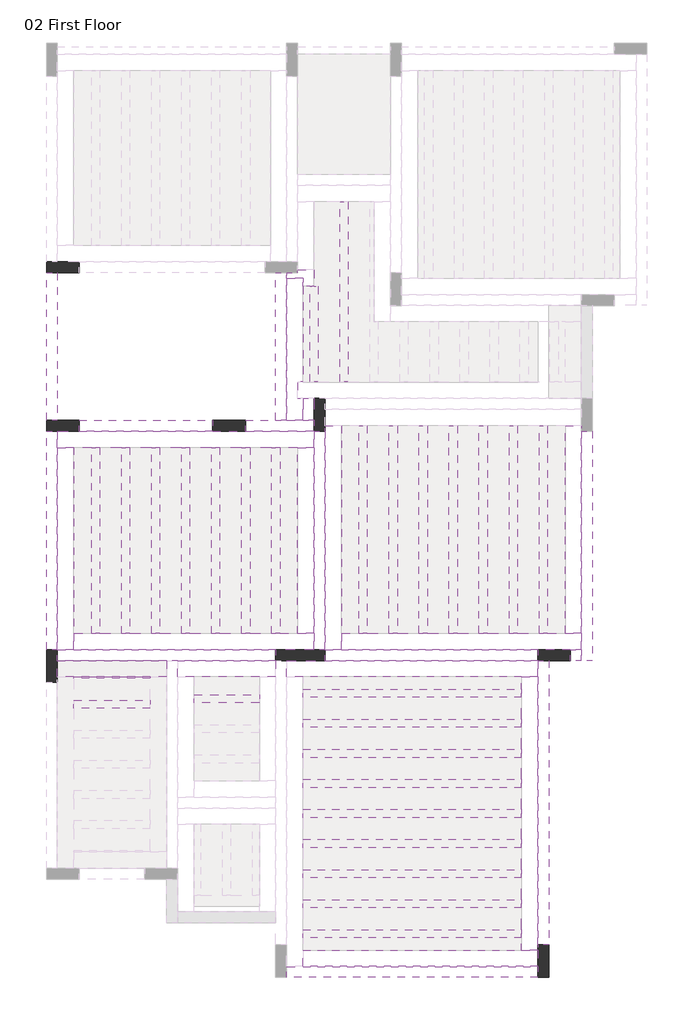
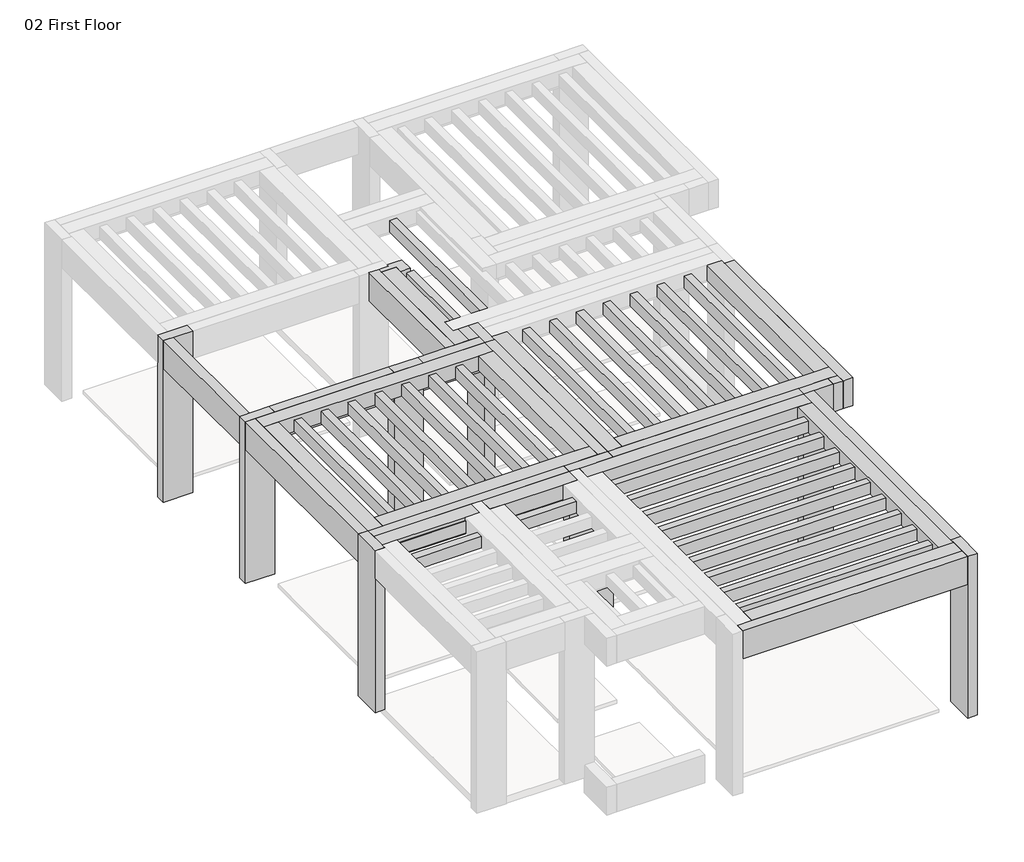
# One storey, part 2 of 3: 55 beams, 8 columns.
"""IFC4 building model written with IfcOpenShell, lengths in millimetres."""

from ifc_helpers import new_model, si_unit, frame, origin, place, context, project, spatial, polyline, outline, extrude, faceted_brep, element, save

model = new_model("IFC4")

# Units and contexts
model_context = context("Model", 3, world=origin())
ifc_project = project(units=[si_unit("LENGTHUNIT", "METRE", prefix="MILLI")], contexts=[model_context])

# Site, building, storey
site = spatial("IfcSite", under=ifc_project)
building = spatial("IfcBuilding", under=site)
storey = spatial("IfcBuildingStorey", under=building, Name="02 First Floor", Elevation=3500.0)

# Beams
placement = place(None, origin())
element("IfcBeam", 1, ObjectType="M_Concrete-Rectangular Beam : DB1- 20 x 60 cm", at=placement, inside=storey, context=model_context, shape_type="SweptSolid", body=[
    extrude(outline(polyline([(-5201.9262989, 1144.9958345), (-5201.9262989, 1344.9958345), (-2759.8125017, 1344.9958345), (-2759.8125017, 1144.9958345), (-5201.9262989, 1144.9958345)])), frame((0.0, 0.0, 6400.0), z_axis=(0.0, 0.0, 1.0), x_axis=(1.0, 0.0, 0.0)), (0.0, 0.0, 1.0), 600.0),
])
element("IfcBeam", 2, ObjectType="M_Concrete-Rectangular Beam : DB1- 20 x 60 cm", at=placement, inside=storey, context=model_context, shape_type="Brep", body=[
    faceted_brep([(-2159.8125017, 1344.9958345, 7000.0), (-2159.8125017, 1144.9958345, 7000.0), (-901.9262989, 1144.9958345, 7000.0), (-901.9262989, 1344.9958345, 7000.0), (-1101.9262989, 1344.9958345, 7000.0), (-1401.9262989, 1344.9958345, 7000.0), (-1601.9262989, 1344.9958345, 7000.0), (-2159.8125017, 1144.9958345, 6400.0), (-901.9262989, 1144.9958345, 6400.0), (-901.9262989, 1144.9958345, 6680.0), (-2159.8125017, 1344.9958345, 6400.0), (-1601.9262989, 1344.9958345, 6400.0), (-1401.9262989, 1344.9958345, 6400.0), (-901.9262989, 1344.9958345, 6400.0), (-901.9262989, 1344.9958345, 6680.0)], [[[0, 1, 2, 3, 4, 5, 6]], [[1, 7, 8, 9, 2]], [[7, 10, 11, 12, 13, 8]], [[10, 0, 6, 5, 4, 3, 14, 13, 12, 11]], [[1, 0, 10, 7]], [[3, 2, 9, 8, 13, 14]]]),
])
element("IfcBeam", 3, ObjectType="M_Concrete-Rectangular Beam : DB1- 20 x 60 cm", at=placement, inside=storey, context=model_context, shape_type="Brep", body=[
    faceted_brep([(-1401.9262989, 4044.9958345, 7000.0), (-1601.9262989, 4044.9958345, 7000.0), (-1601.9262989, 1344.9958345, 7000.0), (-1401.9262989, 1344.9958345, 7000.0), (-1401.9262989, 3944.9958345, 7000.0), (-1601.9262989, 4044.9958345, 6400.0), (-1601.9262989, 1344.9958345, 6400.0), (-1401.9262989, 4044.9958345, 6400.0), (-1401.9262989, 1344.9958345, 6400.0), (-1401.9262989, 1344.9958345, 6680.0), (-1401.9262989, 4044.9958345, 6680.0)], [[[0, 1, 2, 3, 4]], [[1, 5, 6, 2]], [[5, 7, 8, 6]], [[3, 9, 8, 7, 10, 0, 4]], [[0, 10, 7, 5, 1]], [[3, 2, 6, 8, 9]]]),
])
element("IfcBeam", 4, ObjectType="M_Concrete-Rectangular Beam : DB1- 20 x 60 cm", at=placement, inside=storey, context=model_context, shape_type="SweptSolid", body=[
    extrude(outline(polyline([(-5801.9262989, 4044.9958345), (-5601.9262989, 4044.9958345), (-5601.9262989, 1344.9958345), (-5801.9262989, 1344.9958345), (-5801.9262989, 4044.9958345)])), frame((0.0, 0.0, 6400.0), z_axis=(0.0, 0.0, 1.0), x_axis=(1.0, 0.0, 0.0)), (0.0, 0.0, 1.0), 600.0),
])
element("IfcBeam", 5, ObjectType="M_Concrete-Rectangular Beam : DB1- 20 x 60 cm", at=placement, inside=storey, context=model_context, shape_type="Brep", body=[
    faceted_brep([(-5601.9262989, 1144.9958345, 7000.0), (-5801.9262989, 1144.9958345, 7000.0), (-5801.9262989, -2855.0041655, 7000.0), (-5601.9262989, -2855.0041655, 7000.0), (-5601.9262989, 844.9958345, 7000.0), (-5801.9262989, 1144.9958345, 6400.0), (-5801.9262989, -2855.0041655, 6400.0), (-5601.9262989, 1144.9958345, 6400.0), (-5601.9262989, -2855.0041655, 6400.0), (-5601.9262989, 1144.9958345, 6680.0), (-5601.9262989, -2855.0041655, 6680.0)], [[[0, 1, 2, 3, 4]], [[1, 5, 6, 2]], [[5, 7, 8, 6]], [[7, 9, 0, 4, 3, 10, 8]], [[1, 0, 9, 7, 5]], [[3, 2, 6, 8, 10]]]),
])
element("IfcBeam", 6, ObjectType="M_Concrete-Rectangular Beam : DB1- 20 x 60 cm", at=placement, inside=storey, context=model_context, shape_type="Brep", body=[
    faceted_brep([(-1401.9262989, -8655.0041655, 7000.0), (-1401.9262989, -8855.0041655, 7000.0), (3198.0737011, -8855.0041655, 7000.0), (3198.0737011, -8655.0041655, 7000.0), (-1101.9262989, -8655.0041655, 7000.0), (-1401.9262989, -8655.0041655, 6400.0), (-1401.9262989, -8655.0041655, 6680.0), (3198.0737011, -8655.0041655, 6680.0), (3198.0737011, -8655.0041655, 6400.0), (-1401.9262989, -8855.0041655, 6400.0), (3198.0737011, -8855.0041655, 6400.0)], [[[0, 1, 2, 3, 4]], [[5, 6, 0, 4, 3, 7, 8]], [[9, 5, 8, 10]], [[1, 9, 10, 2]], [[1, 0, 6, 5, 9]], [[3, 2, 10, 8, 7]]]),
])
element("IfcBeam", 7, ObjectType="M_Concrete-Rectangular Beam : DB1- 20 x 60 cm", at=placement, inside=storey, context=model_context, shape_type="Brep", body=[
    faceted_brep([(3398.0737011, -3055.0041655, 7000.0), (3198.0737011, -3055.0041655, 7000.0), (3198.0737011, -3355.0041655, 7000.0), (3198.0737011, -8255.0041655, 7000.0), (3398.0737011, -8255.0041655, 7000.0), (3398.0737011, -3055.0041655, 6400.0), (3398.0737011, -8255.0041655, 6400.0), (3198.0737011, -3055.0041655, 6400.0), (3198.0737011, -8255.0041655, 6400.0), (3198.0737011, -3055.0041655, 6680.0)], [[[0, 1, 2, 3, 4]], [[5, 0, 4, 6]], [[7, 5, 6, 8]], [[1, 9, 7, 8, 3, 2]], [[1, 0, 5, 7, 9]], [[4, 3, 8, 6]]]),
])
element("IfcBeam", 8, ObjectType="M_Concrete-Rectangular Beam : DB1- 20 x 60 cm", at=placement, inside=storey, context=model_context, shape_type="Brep", body=[
    faceted_brep([(3998.0737011, -3055.0041655, 7000.0), (4198.0737011, -3055.0041655, 7000.0), (4198.0737011, 1144.9958345, 7000.0), (3998.0737011, 1144.9958345, 7000.0), (3998.0737011, -2555.0041655, 7000.0), (3998.0737011, -2855.0041655, 7000.0), (3998.0737011, -3055.0041655, 6400.0), (3998.0737011, 1144.9958345, 6400.0), (3998.0737011, -2855.0041655, 6400.0), (4198.0737011, -3055.0041655, 6400.0), (4198.0737011, 1144.9958345, 6400.0)], [[[0, 1, 2, 3, 4, 5]], [[6, 0, 5, 4, 3, 7, 8]], [[9, 6, 8, 7, 10]], [[1, 9, 10, 2]], [[1, 0, 6, 9]], [[3, 2, 10, 7]]]),
])
element("IfcBeam", 9, ObjectType="M_Concrete-Rectangular Beam : DB1- 20 x 60 cm", at=placement, inside=storey, context=model_context, shape_type="Brep", body=[
    faceted_brep([(-901.9262989, -2855.0041655, 7000.0), (-701.9262989, -2855.0041655, 7000.0), (-701.9262989, 1144.9958345, 7000.0), (-901.9262989, 1144.9958345, 7000.0), (-901.9262989, 844.9958345, 7000.0), (-901.9262989, -2555.0041655, 7000.0), (-701.9262989, -2855.0041655, 6400.0), (-901.9262989, -2855.0041655, 6400.0), (-901.9262989, 1144.9958345, 6400.0), (-701.9262989, 1144.9958345, 6400.0), (-701.9262989, -2855.0041655, 6680.0), (-901.9262989, -2855.0041655, 6680.0), (-901.9262989, 1144.9958345, 6680.0)], [[[0, 1, 2, 3, 4, 5]], [[6, 7, 8, 9]], [[1, 10, 6, 9, 2]], [[1, 0, 11, 7, 6, 10]], [[2, 9, 8, 12, 3]], [[7, 11, 0, 5, 4, 3, 12, 8]]]),
])
element("IfcBeam", 10, ObjectType="M_Concrete-Rectangular Beam : DB2- 20 x 60 cm", at=placement, inside=storey, context=model_context, shape_type="Brep", body=[
    faceted_brep([(3198.0737011, -3055.0041655, 7000.0), (3198.0737011, -2855.0041655, 7000.0), (-401.9262989, -2855.0041655, 7000.0), (-701.9262989, -2855.0041655, 7000.0), (-701.9262989, -3055.0041655, 7000.0), (3198.0737011, -2855.0041655, 6400.0), (-701.9262989, -2855.0041655, 6400.0), (-701.9262989, -2855.0041655, 6680.0), (3198.0737011, -3055.0041655, 6400.0), (-701.9262989, -3055.0041655, 6400.0), (3198.0737011, -3055.0041655, 6680.0)], [[[0, 1, 2, 3, 4]], [[1, 5, 6, 7, 3, 2]], [[5, 8, 9, 6]], [[8, 10, 0, 4, 9]], [[0, 10, 8, 5, 1]], [[4, 3, 7, 6, 9]]]),
])
element("IfcBeam", 11, ObjectType="M_Concrete-Rectangular Beam : DB2- 20 x 60 cm", at=placement, inside=storey, context=model_context, shape_type="Brep", body=[
    faceted_brep([(-5601.9262989, -2855.0041655, 7000.0), (-5601.9262989, -3055.0041655, 7000.0), (-3601.9262989, -3055.0041655, 7000.0), (-3401.9262989, -3055.0041655, 7000.0), (-1601.9262989, -3055.0041655, 7000.0), (-1601.9262989, -2855.0041655, 7000.0), (-5301.9262989, -2855.0041655, 7000.0), (-5601.9262989, -2855.0041655, 6400.0), (-5601.9262989, -2855.0041655, 6680.0), (-1601.9262989, -2855.0041655, 6400.0), (-5601.9262989, -3055.0041655, 6400.0), (-1601.9262989, -3055.0041655, 6400.0), (-3401.9262989, -3055.0041655, 6400.0), (-3601.9262989, -3055.0041655, 6400.0), (-5601.9262989, -3055.0041655, 6680.0), (-1601.9262989, -3055.0041655, 6680.0)], [[[0, 1, 2, 3, 4, 5, 6]], [[7, 8, 0, 6, 5, 9]], [[10, 7, 9, 11, 12, 13]], [[1, 14, 10, 13, 12, 11, 15, 4, 3, 2]], [[1, 0, 8, 7, 10, 14]], [[5, 4, 15, 11, 9]]]),
])
element("IfcBeam", 12, ObjectType="M_Concrete-Rectangular Beam : DBC- 20 x 60 cm", at=placement, inside=storey, context=model_context, shape_type="Brep", body=[
    faceted_brep([(3998.0737011, -3055.0041655, 7000.0), (3998.0737011, -2855.0041655, 7000.0), (3798.0737011, -2855.0041655, 7000.0), (3798.0737011, -3055.0041655, 7000.0), (3998.0737011, -3055.0041655, 6400.0), (3798.0737011, -3055.0041655, 6400.0), (3998.0737011, -2855.0041655, 6400.0), (3798.0737011, -2855.0041655, 6400.0), (3998.0737011, -2855.0041655, 6680.0)], [[[0, 1, 2, 3]], [[4, 0, 3, 5]], [[6, 4, 5, 7]], [[1, 8, 6, 7, 2]], [[1, 0, 4, 6, 8]], [[3, 2, 7, 5]]]),
])
element("IfcBeam", 13, ObjectType="M_Concrete-Rectangular Beam : P- 30 x 32 cm", at=placement, inside=storey, context=model_context, shape_type="Brep", body=[
    faceted_brep([(-701.9262989, -2855.0041655, 7000.0), (-401.9262989, -2855.0041655, 7000.0), (-401.9262989, -2555.0041655, 7000.0), (-401.9262989, 1244.9958345, 7000.0), (-701.9262989, 1244.9958345, 7000.0), (-701.9262989, 1144.9958345, 7000.0), (-701.9262989, -2855.0041655, 6680.0), (-701.9262989, 1244.9958345, 6680.0), (-401.9262989, -2855.0041655, 6680.0), (-401.9262989, 1244.9958345, 6680.0), (-401.9262989, -2555.0041655, 6680.0), (-401.9262989, 1244.9958345, 6930.0)], [[[0, 1, 2, 3, 4, 5]], [[6, 0, 5, 4, 7]], [[8, 6, 7, 9, 10]], [[1, 8, 10, 9, 11, 3, 2]], [[4, 3, 11, 9, 7]], [[1, 0, 6, 8]]]),
])
element("IfcBeam", 14, ObjectType="M_Concrete-Rectangular Beam : P- 30 x 32 cm", at=placement, inside=storey, context=model_context, shape_type="Brep", body=[
    faceted_brep([(3998.0737011, -2855.0041655, 7000.0), (3998.0737011, -2555.0041655, 7000.0), (3698.0737011, -2555.0041655, 7000.0), (-401.9262989, -2555.0041655, 7000.0), (-401.9262989, -2855.0041655, 7000.0), (3198.0737011, -2855.0041655, 7000.0), (3798.0737011, -2855.0041655, 7000.0), (3998.0737011, -2855.0041655, 6680.0), (-401.9262989, -2855.0041655, 6680.0), (3998.0737011, -2555.0041655, 6680.0), (-401.9262989, -2555.0041655, 6680.0), (-76.9262989, -2555.0041655, 6680.0), (73.0737011, -2555.0041655, 6680.0), (473.0737011, -2555.0041655, 6680.0), (623.0737011, -2555.0041655, 6680.0), (1023.0737011, -2555.0041655, 6680.0), (1173.0737011, -2555.0041655, 6680.0), (1573.0737011, -2555.0041655, 6680.0), (1723.0737011, -2555.0041655, 6680.0), (2123.0737011, -2555.0041655, 6680.0), (2273.0737011, -2555.0041655, 6680.0), (2673.0737011, -2555.0041655, 6680.0), (2823.0737011, -2555.0041655, 6680.0), (3223.0737011, -2555.0041655, 6680.0), (3373.0737011, -2555.0041655, 6680.0), (3698.0737011, -2555.0041655, 6680.0), (-401.9262989, -2555.0041655, 6930.0)], [[[0, 1, 2, 3, 4, 5, 6]], [[7, 0, 6, 5, 4, 8]], [[9, 7, 8, 10, 11, 12, 13, 14, 15, 16, 17, 18, 19, 20, 21, 22, 23, 24, 25]], [[1, 9, 25, 24, 23, 22, 21, 20, 19, 18, 17, 16, 15, 14, 13, 12, 11, 10, 26, 3, 2]], [[4, 3, 26, 10, 8]], [[1, 0, 7, 9]]]),
])
element("IfcBeam", 15, ObjectType="M_Concrete-Rectangular Beam : P- 30 x 32 cm", at=placement, inside=storey, context=model_context, shape_type="Brep", body=[
    faceted_brep([(3698.0737011, -2555.0041655, 7000.0), (3998.0737011, -2555.0041655, 7000.0), (3998.0737011, 1144.9958345, 7000.0), (3998.0737011, 1244.9958345, 7000.0), (3698.0737011, 1244.9958345, 7000.0), (3998.0737011, -2555.0041655, 6680.0), (3998.0737011, 1244.9958345, 6680.0), (3698.0737011, -2555.0041655, 6680.0), (3698.0737011, 1244.9958345, 6680.0), (3698.0737011, -2555.0041655, 6930.0), (3698.0737011, 1244.9958345, 6930.0)], [[[0, 1, 2, 3, 4]], [[1, 5, 6, 3, 2]], [[5, 7, 8, 6]], [[7, 9, 0, 4, 10, 8]], [[1, 0, 9, 7, 5]], [[4, 3, 6, 8, 10]]]),
])
element("IfcBeam", 16, ObjectType="M_Concrete-Rectangular Beam : P- 30 x 32 cm", at=placement, inside=storey, context=model_context, shape_type="Brep", body=[
    faceted_brep([(-5601.9262989, 1144.9958345, 7000.0), (-5601.9262989, 844.9958345, 7000.0), (-5301.9262989, 844.9958345, 7000.0), (-1201.9262989, 844.9958345, 7000.0), (-901.9262989, 844.9958345, 7000.0), (-901.9262989, 1144.9958345, 7000.0), (-2159.8125017, 1144.9958345, 7000.0), (-2759.8125017, 1144.9958345, 7000.0), (-5201.9262989, 1144.9958345, 7000.0), (-5601.9262989, 1144.9958345, 6680.0), (-901.9262989, 1144.9958345, 6680.0), (-5601.9262989, 844.9958345, 6680.0), (-901.9262989, 844.9958345, 6680.0), (-1201.9262989, 844.9958345, 6680.0), (-1526.9262989, 844.9958345, 6680.0), (-1676.9262989, 844.9958345, 6680.0), (-2076.9262989, 844.9958345, 6680.0), (-2226.9262989, 844.9958345, 6680.0), (-2626.9262989, 844.9958345, 6680.0), (-2776.9262989, 844.9958345, 6680.0), (-3176.9262989, 844.9958345, 6680.0), (-3326.9262989, 844.9958345, 6680.0), (-3726.9262989, 844.9958345, 6680.0), (-3876.9262989, 844.9958345, 6680.0), (-4276.9262989, 844.9958345, 6680.0), (-4426.9262989, 844.9958345, 6680.0), (-4826.9262989, 844.9958345, 6680.0), (-4976.9262989, 844.9958345, 6680.0), (-5301.9262989, 844.9958345, 6680.0)], [[[0, 1, 2, 3, 4, 5, 6, 7, 8]], [[9, 0, 8, 7, 6, 5, 10]], [[11, 9, 10, 12, 13, 14, 15, 16, 17, 18, 19, 20, 21, 22, 23, 24, 25, 26, 27, 28]], [[1, 11, 28, 27, 26, 25, 24, 23, 22, 21, 20, 19, 18, 17, 16, 15, 14, 13, 12, 4, 3, 2]], [[1, 0, 9, 11]], [[5, 4, 12, 10]]]),
])
element("IfcBeam", 17, ObjectType="M_Concrete-Rectangular Beam : P- 30 x 32 cm", at=placement, inside=storey, context=model_context, shape_type="Brep", body=[
    faceted_brep([(-5601.9262989, -2855.0041655, 7000.0), (-5301.9262989, -2855.0041655, 7000.0), (-5301.9262989, -2555.0041655, 7000.0), (-5301.9262989, 844.9958345, 7000.0), (-5601.9262989, 844.9958345, 7000.0), (-5601.9262989, -2855.0041655, 6680.0), (-5601.9262989, 844.9958345, 6680.0), (-5301.9262989, -2855.0041655, 6680.0), (-5301.9262989, 844.9958345, 6680.0), (-5301.9262989, -2555.0041655, 6680.0), (-5301.9262989, 844.9958345, 6930.0)], [[[0, 1, 2, 3, 4]], [[5, 0, 4, 6]], [[7, 5, 6, 8, 9]], [[1, 7, 9, 8, 10, 3, 2]], [[4, 3, 10, 8, 6]], [[1, 0, 5, 7]]]),
])
element("IfcBeam", 18, ObjectType="M_Concrete-Rectangular Beam : P- 30 x 32 cm", at=placement, inside=storey, context=model_context, shape_type="Brep", body=[
    faceted_brep([(-901.9262989, -2855.0041655, 7000.0), (-901.9262989, -2555.0041655, 7000.0), (-1201.9262989, -2555.0041655, 7000.0), (-5301.9262989, -2555.0041655, 7000.0), (-5301.9262989, -2855.0041655, 7000.0), (-1601.9262989, -2855.0041655, 7000.0), (-901.9262989, -2855.0041655, 6680.0), (-5301.9262989, -2855.0041655, 6680.0), (-901.9262989, -2555.0041655, 6680.0), (-5301.9262989, -2555.0041655, 6680.0), (-4976.9262989, -2555.0041655, 6680.0), (-4826.9262989, -2555.0041655, 6680.0), (-4426.9262989, -2555.0041655, 6680.0), (-4276.9262989, -2555.0041655, 6680.0), (-3876.9262989, -2555.0041655, 6680.0), (-3726.9262989, -2555.0041655, 6680.0), (-3326.9262989, -2555.0041655, 6680.0), (-3176.9262989, -2555.0041655, 6680.0), (-2776.9262989, -2555.0041655, 6680.0), (-2626.9262989, -2555.0041655, 6680.0), (-2226.9262989, -2555.0041655, 6680.0), (-2076.9262989, -2555.0041655, 6680.0), (-1676.9262989, -2555.0041655, 6680.0), (-1526.9262989, -2555.0041655, 6680.0), (-1201.9262989, -2555.0041655, 6680.0), (-5301.9262989, -2555.0041655, 6930.0)], [[[0, 1, 2, 3, 4, 5]], [[6, 0, 5, 4, 7]], [[8, 6, 7, 9, 10, 11, 12, 13, 14, 15, 16, 17, 18, 19, 20, 21, 22, 23, 24]], [[1, 8, 24, 23, 22, 21, 20, 19, 18, 17, 16, 15, 14, 13, 12, 11, 10, 9, 25, 3, 2]], [[4, 3, 25, 9, 7]], [[1, 0, 6, 8]]]),
])
element("IfcBeam", 19, ObjectType="M_Concrete-Rectangular Beam : P- 30 x 32 cm", at=placement, inside=storey, context=model_context, shape_type="Brep", body=[
    faceted_brep([(-901.9262989, 844.9958345, 7000.0), (-1201.9262989, 844.9958345, 7000.0), (-1201.9262989, -2555.0041655, 7000.0), (-901.9262989, -2555.0041655, 7000.0), (-901.9262989, 844.9958345, 6680.0), (-901.9262989, -2555.0041655, 6680.0), (-1201.9262989, 844.9958345, 6680.0), (-1201.9262989, -2555.0041655, 6680.0), (-1201.9262989, 844.9958345, 6930.0), (-1201.9262989, -2555.0041655, 6930.0)], [[[0, 1, 2, 3]], [[4, 0, 3, 5]], [[6, 4, 5, 7]], [[1, 8, 6, 7, 9, 2]], [[1, 0, 4, 6, 8]], [[3, 2, 9, 7, 5]]]),
])
element("IfcBeam", 20, ObjectType="M_Concrete-Rectangular Beam : P- 30 x 32 cm", at=placement, inside=storey, context=model_context, shape_type="Brep", body=[
    faceted_brep([(-1401.9262989, -3055.0041655, 7000.0), (-1401.9262989, -3355.0041655, 7000.0), (-1101.9262989, -3355.0041655, 7000.0), (2898.0737011, -3355.0041655, 7000.0), (3198.0737011, -3355.0041655, 7000.0), (3198.0737011, -3055.0041655, 7000.0), (-701.9262989, -3055.0041655, 7000.0), (-1401.9262989, -3055.0041655, 6680.0), (3198.0737011, -3055.0041655, 6680.0), (-1401.9262989, -3355.0041655, 6680.0), (3198.0737011, -3355.0041655, 6680.0), (2898.0737011, -3355.0041655, 6680.0), (-1101.9262989, -3355.0041655, 6680.0)], [[[0, 1, 2, 3, 4, 5, 6]], [[7, 0, 6, 5, 8]], [[9, 7, 8, 10, 11, 12]], [[1, 9, 12, 11, 10, 4, 3, 2]], [[1, 0, 7, 9]], [[5, 4, 10, 8]]]),
])
element("IfcBeam", 21, ObjectType="M_Concrete-Rectangular Beam : P- 30 x 32 cm", at=placement, inside=storey, context=model_context, shape_type="Brep", body=[
    faceted_brep([(3198.0737011, -8655.0041655, 7000.0), (3198.0737011, -8355.0041655, 7000.0), (2898.0737011, -8355.0041655, 7000.0), (-1101.9262989, -8355.0041655, 7000.0), (-1101.9262989, -8655.0041655, 7000.0), (3198.0737011, -8655.0041655, 6680.0), (-1101.9262989, -8655.0041655, 6680.0), (3198.0737011, -8355.0041655, 6680.0), (-1101.9262989, -8355.0041655, 6680.0), (2898.0737011, -8355.0041655, 6680.0), (-1101.9262989, -8355.0041655, 6930.0)], [[[0, 1, 2, 3, 4]], [[5, 0, 4, 6]], [[7, 5, 6, 8, 9]], [[1, 7, 9, 8, 10, 3, 2]], [[4, 3, 10, 8, 6]], [[1, 0, 5, 7]]]),
])
element("IfcBeam", 22, ObjectType="M_Concrete-Rectangular Beam : P- 30 x 32 cm", at=placement, inside=storey, context=model_context, shape_type="Brep", body=[
    faceted_brep([(3198.0737011, -3355.0041655, 7000.0), (2898.0737011, -3355.0041655, 7000.0), (2898.0737011, -8355.0041655, 7000.0), (3198.0737011, -8355.0041655, 7000.0), (3198.0737011, -8255.0041655, 7000.0), (3198.0737011, -3355.0041655, 6680.0), (3198.0737011, -8355.0041655, 6680.0), (2898.0737011, -3355.0041655, 6680.0), (2898.0737011, -8355.0041655, 6680.0), (2898.0737011, -8130.0041655, 6680.0), (2898.0737011, -7980.0041655, 6680.0), (2898.0737011, -7580.0041655, 6680.0), (2898.0737011, -7430.0041655, 6680.0), (2898.0737011, -7030.0041655, 6680.0), (2898.0737011, -6880.0041655, 6680.0), (2898.0737011, -6480.0041655, 6680.0), (2898.0737011, -6330.0041655, 6680.0), (2898.0737011, -5930.0041655, 6680.0), (2898.0737011, -5780.0041655, 6680.0), (2898.0737011, -5380.0041655, 6680.0), (2898.0737011, -5230.0041655, 6680.0), (2898.0737011, -4830.0041655, 6680.0), (2898.0737011, -4680.0041655, 6680.0), (2898.0737011, -4280.0041655, 6680.0), (2898.0737011, -4130.0041655, 6680.0), (2898.0737011, -3730.0041655, 6680.0), (2898.0737011, -3580.0041655, 6680.0), (2898.0737011, -3355.0041655, 6930.0), (2898.0737011, -8355.0041655, 6930.0)], [[[0, 1, 2, 3, 4]], [[5, 0, 4, 3, 6]], [[7, 5, 6, 8, 9, 10, 11, 12, 13, 14, 15, 16, 17, 18, 19, 20, 21, 22, 23, 24, 25, 26]], [[1, 27, 7, 26, 25, 24, 23, 22, 21, 20, 19, 18, 17, 16, 15, 14, 13, 12, 11, 10, 9, 8, 28, 2]], [[1, 0, 5, 7, 27]], [[3, 2, 28, 8, 6]]]),
])
element("IfcBeam", 23, ObjectType="M_Concrete-Rectangular Beam : P- 30 x 32 cm", at=placement, inside=storey, context=model_context, shape_type="Brep", body=[
    faceted_brep([(-3401.9262989, -3055.0041655, 7000.0), (-3401.9262989, -3355.0041655, 7000.0), (-3101.9262989, -3355.0041655, 7000.0), (-1901.9262989, -3355.0041655, 7000.0), (-1601.9262989, -3355.0041655, 7000.0), (-1601.9262989, -3055.0041655, 7000.0), (-3401.9262989, -3055.0041655, 6680.0), (-1601.9262989, -3055.0041655, 6680.0), (-3401.9262989, -3355.0041655, 6680.0), (-1601.9262989, -3355.0041655, 6680.0), (-1901.9262989, -3355.0041655, 6680.0), (-3101.9262989, -3355.0041655, 6680.0)], [[[0, 1, 2, 3, 4, 5]], [[6, 0, 5, 7]], [[8, 6, 7, 9, 10, 11]], [[1, 8, 11, 10, 9, 4, 3, 2]], [[1, 0, 6, 8]], [[5, 4, 9, 7]]]),
])
element("IfcBeam", 24, ObjectType="M_Concrete-Rectangular Beam : P- 30 x 32 cm", at=placement, inside=storey, context=model_context, shape_type="Brep", body=[
    faceted_brep([(-1101.9262989, 3944.9958345, 7000.0), (-1401.9262989, 3944.9958345, 7000.0), (-1401.9262989, 1344.9958345, 7000.0), (-1101.9262989, 1344.9958345, 7000.0), (-1101.9262989, 1744.9958345, 7000.0), (-1201.9262989, 1744.9958345, 7000.0), (-1201.9262989, 2044.9958345, 7000.0), (-1101.9262989, 2044.9958345, 7000.0), (-1101.9262989, 3794.9958345, 7000.0), (-1101.9262989, 1744.9958345, 6680.0), (-1101.9262989, 1344.9958345, 6680.0), (-1401.9262989, 3944.9958345, 6680.0), (-1101.9262989, 3944.9958345, 6680.0), (-1101.9262989, 3794.9958345, 6680.0), (-1101.9262989, 2044.9958345, 6680.0), (-1201.9262989, 2044.9958345, 6680.0), (-1201.9262989, 1744.9958345, 6680.0), (-1401.9262989, 1344.9958345, 6680.0), (-1101.9262989, 2044.9958345, 6930.0)], [[[0, 1, 2, 3, 4, 5, 6, 7, 8]], [[9, 4, 3, 10]], [[11, 12, 13, 14, 15, 16, 9, 10, 17]], [[1, 11, 17, 2]], [[1, 0, 12, 11]], [[6, 15, 14, 18, 7]], [[16, 5, 4, 9]], [[15, 6, 5, 16]], [[12, 0, 8, 7, 18, 14, 13]], [[3, 2, 17, 10]]]),
])
element("IfcBeam", 25, ObjectType="M_Concrete-Rectangular Beam : P- 30 x 32 cm", at=placement, inside=storey, context=model_context, shape_type="Brep", body=[
    faceted_brep([(-1101.9262989, 3944.9958345, 7000.0), (-1101.9262989, 3794.9958345, 7000.0), (-901.9262989, 3794.9958345, 7000.0), (-901.9262989, 4094.9958345, 7000.0), (-1201.9262989, 4094.9958345, 7000.0), (-1201.9262989, 4044.9958345, 7000.0), (-1401.9262989, 4044.9958345, 7000.0), (-1401.9262989, 3944.9958345, 7000.0), (-901.9262989, 4094.9958345, 6930.0), (-901.9262989, 4094.9958345, 6680.0), (-1201.9262989, 4094.9958345, 6680.0), (-1101.9262989, 3794.9958345, 6680.0), (-1101.9262989, 3944.9958345, 6680.0), (-1401.9262989, 3944.9958345, 6680.0), (-1401.9262989, 4044.9958345, 6680.0), (-1201.9262989, 4044.9958345, 6680.0), (-901.9262989, 3794.9958345, 6680.0), (-976.9262989, 3794.9958345, 6680.0), (-1101.9262989, 3794.9958345, 6930.0), (-901.9262989, 3794.9958345, 6930.0)], [[[0, 1, 2, 3, 4, 5, 6, 7]], [[4, 3, 8, 9, 10]], [[11, 12, 13, 14, 15, 10, 9, 16, 17]], [[2, 1, 18, 11, 17, 16, 19]], [[13, 7, 6, 14]], [[1, 0, 12, 11, 18]], [[3, 2, 19, 16, 9, 8]], [[12, 0, 7, 13]], [[5, 15, 14, 6]], [[15, 5, 4, 10]]]),
])
element("IfcBeam", 26, ObjectType="M_Concrete-Rectangular Beam : P- 30 x 32 cm", at=placement, inside=storey, context=model_context, shape_type="SweptSolid", body=[
    extrude(outline(polyline([(-1101.9262989, 1744.9958345), (-901.9262989, 1744.9958345), (-901.9262989, 1344.9958345), (-1101.9262989, 1344.9958345), (-1101.9262989, 1744.9958345)])), frame((0.0, 0.0, 6680.0), z_axis=(0.0, 0.0, 1.0), x_axis=(1.0, 0.0, 0.0)), (0.0, 0.0, 1.0), 320.0),
])
element("IfcBeam", 27, ObjectType="M_Concrete-Rectangular Beam : P- 30 x 32 cm", at=placement, inside=storey, context=model_context, shape_type="Brep", body=[
    faceted_brep([(-5601.9262989, -3055.0041655, 7000.0), (-5601.9262989, -3355.0041655, 7000.0), (-5301.9262989, -3355.0041655, 7000.0), (-3901.9262989, -3355.0041655, 7000.0), (-3601.9262989, -3355.0041655, 7000.0), (-3601.9262989, -3055.0041655, 7000.0), (-5601.9262989, -3055.0041655, 6680.0), (-3601.9262989, -3055.0041655, 6680.0), (-5601.9262989, -3355.0041655, 6680.0), (-3601.9262989, -3355.0041655, 6680.0), (-3901.9262989, -3355.0041655, 6680.0), (-5301.9262989, -3355.0041655, 6680.0)], [[[0, 1, 2, 3, 4, 5]], [[6, 0, 5, 7]], [[8, 6, 7, 9, 10, 11]], [[1, 8, 11, 10, 9, 4, 3, 2]], [[1, 0, 6, 8]], [[5, 4, 9, 7]]]),
])
element("IfcBeam", 28, ObjectType="M_Pan Joist : RB1- 32 x 15", at=placement, inside=storey, context=model_context, shape_type="SweptSolid", body=[
    extrude(outline(polyline([(-3101.9262989, -3830.0041655), (-3101.9262989, -3680.0041655), (-1901.9262989, -3680.0041655), (-1901.9262989, -3830.0041655), (-3101.9262989, -3830.0041655)])), frame((0.0, 0.0, 6680.0), z_axis=(0.0, 0.0, 1.0), x_axis=(1.0, 0.0, 0.0)), (0.0, 0.0, 1.0), 250.0),
])
element("IfcBeam", 29, ObjectType="M_Pan Joist : RB1- 32 x 15", at=placement, inside=storey, context=model_context, shape_type="SweptSolid", body=[
    extrude(outline(polyline([(-1101.9262989, -8130.0041655), (-1101.9262989, -7980.0041655), (2898.0737011, -7980.0041655), (2898.0737011, -8130.0041655), (-1101.9262989, -8130.0041655)])), frame((0.0, 0.0, 6680.0), z_axis=(0.0, 0.0, 1.0), x_axis=(1.0, 0.0, 0.0)), (0.0, 0.0, 1.0), 250.0),
])
element("IfcBeam", 30, ObjectType="M_Pan Joist : RB1- 32 x 15", at=placement, inside=storey, context=model_context, shape_type="SweptSolid", body=[
    extrude(outline(polyline([(-1101.9262989, -7580.0041655), (-1101.9262989, -7430.0041655), (2898.0737011, -7430.0041655), (2898.0737011, -7580.0041655), (-1101.9262989, -7580.0041655)])), frame((0.0, 0.0, 6680.0), z_axis=(0.0, 0.0, 1.0), x_axis=(1.0, 0.0, 0.0)), (0.0, 0.0, 1.0), 250.0),
])
element("IfcBeam", 31, ObjectType="M_Pan Joist : RB1- 32 x 15", at=placement, inside=storey, context=model_context, shape_type="SweptSolid", body=[
    extrude(outline(polyline([(-1101.9262989, -7030.0041655), (-1101.9262989, -6880.0041655), (2898.0737011, -6880.0041655), (2898.0737011, -7030.0041655), (-1101.9262989, -7030.0041655)])), frame((0.0, 0.0, 6680.0), z_axis=(0.0, 0.0, 1.0), x_axis=(1.0, 0.0, 0.0)), (0.0, 0.0, 1.0), 250.0),
])
element("IfcBeam", 32, ObjectType="M_Pan Joist : RB1- 32 x 15", at=placement, inside=storey, context=model_context, shape_type="SweptSolid", body=[
    extrude(outline(polyline([(-1101.9262989, -6480.0041655), (-1101.9262989, -6330.0041655), (2898.0737011, -6330.0041655), (2898.0737011, -6480.0041655), (-1101.9262989, -6480.0041655)])), frame((0.0, 0.0, 6680.0), z_axis=(0.0, 0.0, 1.0), x_axis=(1.0, 0.0, 0.0)), (0.0, 0.0, 1.0), 250.0),
])
element("IfcBeam", 33, ObjectType="M_Pan Joist : RB1- 32 x 15", at=placement, inside=storey, context=model_context, shape_type="SweptSolid", body=[
    extrude(outline(polyline([(-1101.9262989, -5930.0041655), (-1101.9262989, -5780.0041655), (2898.0737011, -5780.0041655), (2898.0737011, -5930.0041655), (-1101.9262989, -5930.0041655)])), frame((0.0, 0.0, 6680.0), z_axis=(0.0, 0.0, 1.0), x_axis=(1.0, 0.0, 0.0)), (0.0, 0.0, 1.0), 250.0),
])
element("IfcBeam", 34, ObjectType="M_Pan Joist : RB1- 32 x 15", at=placement, inside=storey, context=model_context, shape_type="SweptSolid", body=[
    extrude(outline(polyline([(-1101.9262989, -5380.0041655), (-1101.9262989, -5230.0041655), (2898.0737011, -5230.0041655), (2898.0737011, -5380.0041655), (-1101.9262989, -5380.0041655)])), frame((0.0, 0.0, 6680.0), z_axis=(0.0, 0.0, 1.0), x_axis=(1.0, 0.0, 0.0)), (0.0, 0.0, 1.0), 250.0),
])
element("IfcBeam", 35, ObjectType="M_Pan Joist : RB1- 32 x 15", at=placement, inside=storey, context=model_context, shape_type="SweptSolid", body=[
    extrude(outline(polyline([(-1101.9262989, -4830.0041655), (-1101.9262989, -4680.0041655), (2898.0737011, -4680.0041655), (2898.0737011, -4830.0041655), (-1101.9262989, -4830.0041655)])), frame((0.0, 0.0, 6680.0), z_axis=(0.0, 0.0, 1.0), x_axis=(1.0, 0.0, 0.0)), (0.0, 0.0, 1.0), 250.0),
])
element("IfcBeam", 36, ObjectType="M_Pan Joist : RB1- 32 x 15", at=placement, inside=storey, context=model_context, shape_type="SweptSolid", body=[
    extrude(outline(polyline([(-1101.9262989, -4280.0041655), (-1101.9262989, -4130.0041655), (2898.0737011, -4130.0041655), (2898.0737011, -4280.0041655), (-1101.9262989, -4280.0041655)])), frame((0.0, 0.0, 6680.0), z_axis=(0.0, 0.0, 1.0), x_axis=(1.0, 0.0, 0.0)), (0.0, 0.0, 1.0), 250.0),
])
element("IfcBeam", 37, ObjectType="M_Pan Joist : RB1- 32 x 15", at=placement, inside=storey, context=model_context, shape_type="SweptSolid", body=[
    extrude(outline(polyline([(-1101.9262989, -3730.0041655), (-1101.9262989, -3580.0041655), (2898.0737011, -3580.0041655), (2898.0737011, -3730.0041655), (-1101.9262989, -3730.0041655)])), frame((0.0, 0.0, 6680.0), z_axis=(0.0, 0.0, 1.0), x_axis=(1.0, 0.0, 0.0)), (0.0, 0.0, 1.0), 250.0),
])
element("IfcBeam", 38, ObjectType="M_Pan Joist : RB1- 32 x 15", at=placement, inside=storey, context=model_context, shape_type="SweptSolid", body=[
    extrude(outline(polyline([(3223.0737011, 1244.9958345), (3373.0737011, 1244.9958345), (3373.0737011, -2555.0041655), (3223.0737011, -2555.0041655), (3223.0737011, 1244.9958345)])), frame((0.0, 0.0, 6680.0), z_axis=(0.0, 0.0, 1.0), x_axis=(1.0, 0.0, 0.0)), (0.0, 0.0, 1.0), 250.0),
])
element("IfcBeam", 39, ObjectType="M_Pan Joist : RB1- 32 x 15", at=placement, inside=storey, context=model_context, shape_type="SweptSolid", body=[
    extrude(outline(polyline([(2673.0737011, 1244.9958345), (2823.0737011, 1244.9958345), (2823.0737011, -2555.0041655), (2673.0737011, -2555.0041655), (2673.0737011, 1244.9958345)])), frame((0.0, 0.0, 6680.0), z_axis=(0.0, 0.0, 1.0), x_axis=(1.0, 0.0, 0.0)), (0.0, 0.0, 1.0), 250.0),
])
element("IfcBeam", 40, ObjectType="M_Pan Joist : RB1- 32 x 15", at=placement, inside=storey, context=model_context, shape_type="SweptSolid", body=[
    extrude(outline(polyline([(2123.0737011, 1244.9958345), (2273.0737011, 1244.9958345), (2273.0737011, -2555.0041655), (2123.0737011, -2555.0041655), (2123.0737011, 1244.9958345)])), frame((0.0, 0.0, 6680.0), z_axis=(0.0, 0.0, 1.0), x_axis=(1.0, 0.0, 0.0)), (0.0, 0.0, 1.0), 250.0),
])
element("IfcBeam", 41, ObjectType="M_Pan Joist : RB1- 32 x 15", at=placement, inside=storey, context=model_context, shape_type="SweptSolid", body=[
    extrude(outline(polyline([(1573.0737011, 1244.9958345), (1723.0737011, 1244.9958345), (1723.0737011, -2555.0041655), (1573.0737011, -2555.0041655), (1573.0737011, 1244.9958345)])), frame((0.0, 0.0, 6680.0), z_axis=(0.0, 0.0, 1.0), x_axis=(1.0, 0.0, 0.0)), (0.0, 0.0, 1.0), 250.0),
])
element("IfcBeam", 42, ObjectType="M_Pan Joist : RB1- 32 x 15", at=placement, inside=storey, context=model_context, shape_type="SweptSolid", body=[
    extrude(outline(polyline([(1023.0737011, 1244.9958345), (1173.0737011, 1244.9958345), (1173.0737011, -2555.0041655), (1023.0737011, -2555.0041655), (1023.0737011, 1244.9958345)])), frame((0.0, 0.0, 6680.0), z_axis=(0.0, 0.0, 1.0), x_axis=(1.0, 0.0, 0.0)), (0.0, 0.0, 1.0), 250.0),
])
element("IfcBeam", 43, ObjectType="M_Pan Joist : RB1- 32 x 15", at=placement, inside=storey, context=model_context, shape_type="SweptSolid", body=[
    extrude(outline(polyline([(473.0737011, 1244.9958345), (623.0737011, 1244.9958345), (623.0737011, -2555.0041655), (473.0737011, -2555.0041655), (473.0737011, 1244.9958345)])), frame((0.0, 0.0, 6680.0), z_axis=(0.0, 0.0, 1.0), x_axis=(1.0, 0.0, 0.0)), (0.0, 0.0, 1.0), 250.0),
])
element("IfcBeam", 44, ObjectType="M_Pan Joist : RB1- 32 x 15", at=placement, inside=storey, context=model_context, shape_type="SweptSolid", body=[
    extrude(outline(polyline([(-76.9262989, 1244.9958345), (73.0737011, 1244.9958345), (73.0737011, -2555.0041655), (-76.9262989, -2555.0041655), (-76.9262989, 1244.9958345)])), frame((0.0, 0.0, 6680.0), z_axis=(0.0, 0.0, 1.0), x_axis=(1.0, 0.0, 0.0)), (0.0, 0.0, 1.0), 250.0),
])
element("IfcBeam", 45, ObjectType="M_Pan Joist : RB1- 32 x 15", at=placement, inside=storey, context=model_context, shape_type="SweptSolid", body=[
    extrude(outline(polyline([(-4976.9262989, 844.9958345), (-4826.9262989, 844.9958345), (-4826.9262989, -2555.0041655), (-4976.9262989, -2555.0041655), (-4976.9262989, 844.9958345)])), frame((0.0, 0.0, 6680.0), z_axis=(0.0, 0.0, 1.0), x_axis=(1.0, 0.0, 0.0)), (0.0, 0.0, 1.0), 250.0),
])
element("IfcBeam", 46, ObjectType="M_Pan Joist : RB1- 32 x 15", at=placement, inside=storey, context=model_context, shape_type="SweptSolid", body=[
    extrude(outline(polyline([(-4426.9262989, 844.9958345), (-4276.9262989, 844.9958345), (-4276.9262989, -2555.0041655), (-4426.9262989, -2555.0041655), (-4426.9262989, 844.9958345)])), frame((0.0, 0.0, 6680.0), z_axis=(0.0, 0.0, 1.0), x_axis=(1.0, 0.0, 0.0)), (0.0, 0.0, 1.0), 250.0),
])
element("IfcBeam", 47, ObjectType="M_Pan Joist : RB1- 32 x 15", at=placement, inside=storey, context=model_context, shape_type="SweptSolid", body=[
    extrude(outline(polyline([(-3876.9262989, 844.9958345), (-3726.9262989, 844.9958345), (-3726.9262989, -2555.0041655), (-3876.9262989, -2555.0041655), (-3876.9262989, 844.9958345)])), frame((0.0, 0.0, 6680.0), z_axis=(0.0, 0.0, 1.0), x_axis=(1.0, 0.0, 0.0)), (0.0, 0.0, 1.0), 250.0),
])
element("IfcBeam", 48, ObjectType="M_Pan Joist : RB1- 32 x 15", at=placement, inside=storey, context=model_context, shape_type="SweptSolid", body=[
    extrude(outline(polyline([(-3326.9262989, 844.9958345), (-3176.9262989, 844.9958345), (-3176.9262989, -2555.0041655), (-3326.9262989, -2555.0041655), (-3326.9262989, 844.9958345)])), frame((0.0, 0.0, 6680.0), z_axis=(0.0, 0.0, 1.0), x_axis=(1.0, 0.0, 0.0)), (0.0, 0.0, 1.0), 250.0),
])
element("IfcBeam", 49, ObjectType="M_Pan Joist : RB1- 32 x 15", at=placement, inside=storey, context=model_context, shape_type="SweptSolid", body=[
    extrude(outline(polyline([(-2776.9262989, 844.9958345), (-2626.9262989, 844.9958345), (-2626.9262989, -2555.0041655), (-2776.9262989, -2555.0041655), (-2776.9262989, 844.9958345)])), frame((0.0, 0.0, 6680.0), z_axis=(0.0, 0.0, 1.0), x_axis=(1.0, 0.0, 0.0)), (0.0, 0.0, 1.0), 250.0),
])
element("IfcBeam", 50, ObjectType="M_Pan Joist : RB1- 32 x 15", at=placement, inside=storey, context=model_context, shape_type="SweptSolid", body=[
    extrude(outline(polyline([(-2226.9262989, 844.9958345), (-2076.9262989, 844.9958345), (-2076.9262989, -2555.0041655), (-2226.9262989, -2555.0041655), (-2226.9262989, 844.9958345)])), frame((0.0, 0.0, 6680.0), z_axis=(0.0, 0.0, 1.0), x_axis=(1.0, 0.0, 0.0)), (0.0, 0.0, 1.0), 250.0),
])
element("IfcBeam", 51, ObjectType="M_Pan Joist : RB1- 32 x 15", at=placement, inside=storey, context=model_context, shape_type="SweptSolid", body=[
    extrude(outline(polyline([(-1676.9262989, 844.9958345), (-1526.9262989, 844.9958345), (-1526.9262989, -2555.0041655), (-1676.9262989, -2555.0041655), (-1676.9262989, 844.9958345)])), frame((0.0, 0.0, 6680.0), z_axis=(0.0, 0.0, 1.0), x_axis=(1.0, 0.0, 0.0)), (0.0, 0.0, 1.0), 250.0),
])
element("IfcBeam", 52, ObjectType="M_Pan Joist : RB1- 32 x 15", at=placement, inside=storey, context=model_context, shape_type="SweptSolid", body=[
    extrude(outline(polyline([(-426.9262989, 5344.9958345), (-276.9262989, 5344.9958345), (-276.9262989, 2044.9958345), (-426.9262989, 2044.9958345), (-426.9262989, 5344.9958345)])), frame((0.0, 0.0, 6680.0), z_axis=(0.0, 0.0, 1.0), x_axis=(1.0, 0.0, 0.0)), (0.0, 0.0, 1.0), 250.0),
])
element("IfcBeam", 53, ObjectType="M_Pan Joist : RB1- 32 x 15", at=placement, inside=storey, context=model_context, shape_type="SweptSolid", body=[
    extrude(outline(polyline([(-5301.9262989, -3930.0041655), (-5301.9262989, -3780.0041655), (-3901.9262989, -3780.0041655), (-3901.9262989, -3930.0041655), (-5301.9262989, -3930.0041655)])), frame((0.0, 0.0, 6680.0), z_axis=(0.0, 0.0, 1.0), x_axis=(1.0, 0.0, 0.0)), (0.0, 0.0, 1.0), 250.0),
])
element("IfcBeam", 54, ObjectType="M_Pan Joist : RB1- 32 x 15", at=placement, inside=storey, context=model_context, shape_type="SweptSolid", body=[
    extrude(outline(polyline([(-3901.9262989, -3380.0041655), (-5301.9262989, -3380.0041655), (-5301.9262989, -3355.0041655), (-3901.9262989, -3355.0041655), (-3901.9262989, -3380.0041655)])), frame((0.0, 0.0, 6680.0), z_axis=(0.0, 0.0, 1.0), x_axis=(1.0, 0.0, 0.0)), (0.0, 0.0, 1.0), 250.0),
])
element("IfcBeam", 55, ObjectType="M_Pan Joist : RB1- 32 x 15", at=placement, inside=storey, context=model_context, shape_type="Brep", body=[
    faceted_brep([(-976.9262989, 3794.9958345, 6930.0), (-901.9262989, 3794.9958345, 6930.0), (-826.9262989, 3794.9958345, 6930.0), (-826.9262989, 3794.9958345, 6680.0), (-901.9262989, 3794.9958345, 6680.0), (-976.9262989, 3794.9958345, 6680.0), (-976.9262989, 2044.9958345, 6680.0), (-976.9262989, 2044.9958345, 6930.0), (-826.9262989, 2044.9958345, 6680.0), (-826.9262989, 2044.9958345, 6930.0)], [[[0, 1, 2, 3, 4, 5]], [[0, 5, 6, 7]], [[5, 4, 3, 8, 6]], [[3, 2, 9, 8]], [[2, 1, 0, 7, 9]], [[7, 6, 8, 9]]]),
])

# Columns
element("IfcColumn", 56, ObjectType="M_Concrete-Rectangular-Column : 20 x 60 cm", at=placement, inside=storey, context=model_context, shape_type="Brep", body=[
    faceted_brep([(-5201.9262989, 4044.9958345, 3500.0), (-5801.9262989, 4044.9958345, 3500.0), (-5801.9262989, 4244.9958345, 3500.0), (-5201.9262989, 4244.9958345, 3500.0), (-5201.9262989, 4044.9958345, 7000.0), (-5801.9262989, 4044.9958345, 7000.0), (-5801.9262989, 4244.9958345, 7000.0), (-5601.9262989, 4244.9958345, 7000.0), (-5201.9262989, 4244.9958345, 7000.0)], [[[0, 1, 2, 3]], [[4, 5, 1, 0]], [[5, 6, 2, 1]], [[6, 7, 8, 3, 2]], [[8, 4, 0, 3]], [[4, 8, 7, 6, 5]]]),
])
element("IfcColumn", 57, ObjectType="M_Concrete-Rectangular-Column : 20 x 60 cm", at=placement, inside=storey, context=model_context, shape_type="Brep", body=[
    faceted_brep([(-5201.9262989, 1144.9958345, 3500.0), (-5801.9262989, 1144.9958345, 3500.0), (-5801.9262989, 1344.9958345, 3500.0), (-5201.9262989, 1344.9958345, 3500.0), (-5201.9262989, 1144.9958345, 7000.0), (-5601.9262989, 1144.9958345, 7000.0), (-5801.9262989, 1144.9958345, 7000.0), (-5801.9262989, 1344.9958345, 7000.0), (-5201.9262989, 1344.9958345, 7000.0)], [[[0, 1, 2, 3]], [[4, 5, 6, 1, 0]], [[6, 7, 2, 1]], [[7, 8, 3, 2]], [[8, 4, 0, 3]], [[4, 8, 7, 6, 5]]]),
])
element("IfcColumn", 58, ObjectType="M_Concrete-Rectangular-Column : 20 x 60 cm", at=placement, inside=storey, context=model_context, shape_type="SweptSolid", body=[
    extrude(outline(polyline([(-2159.8125017, 1144.9958345), (-2759.8125017, 1144.9958345), (-2759.8125017, 1344.9958345), (-2159.8125017, 1344.9958345), (-2159.8125017, 1144.9958345)])), frame((0.0, 0.0, 3500.0), z_axis=(0.0, 0.0, 1.0), x_axis=(1.0, 0.0, 0.0)), (0.0, 0.0, 1.0), 3500.0),
])
element("IfcColumn", 59, ObjectType="M_Concrete-Rectangular-Column : 20 x 60 cm", at=placement, inside=storey, context=model_context, shape_type="Brep", body=[
    faceted_brep([(-701.9262989, 1744.9958345, 3500.0), (-701.9262989, 1144.9958345, 3500.0), (-901.9262989, 1144.9958345, 3500.0), (-901.9262989, 1744.9958345, 3500.0), (-701.9262989, 1744.9958345, 7000.0), (-701.9262989, 1544.9958345, 7000.0), (-701.9262989, 1244.9958345, 7000.0), (-701.9262989, 1144.9958345, 7000.0), (-901.9262989, 1144.9958345, 7000.0), (-901.9262989, 1344.9958345, 7000.0), (-901.9262989, 1744.9958345, 7000.0), (-901.9262989, 1744.9958345, 6680.0)], [[[0, 1, 2, 3]], [[4, 5, 6, 7, 1, 0]], [[7, 8, 2, 1]], [[8, 9, 10, 11, 3, 2]], [[10, 4, 0, 3, 11]], [[4, 10, 9, 8, 7, 6, 5]]]),
])
element("IfcColumn", 60, ObjectType="M_Concrete-Rectangular-Column : 20 x 60 cm", at=placement, inside=storey, context=model_context, shape_type="SweptSolid", body=[
    extrude(outline(polyline([(3198.0737011, -2855.0041655), (3798.0737011, -2855.0041655), (3798.0737011, -3055.0041655), (3198.0737011, -3055.0041655), (3198.0737011, -2855.0041655)])), frame((0.0, 0.0, 3500.0), z_axis=(0.0, 0.0, 1.0), x_axis=(1.0, 0.0, 0.0)), (0.0, 0.0, 1.0), 3500.0),
])
element("IfcColumn", 61, ObjectType="M_Concrete-Rectangular-Column : 20 x 60 cm", at=placement, inside=storey, context=model_context, shape_type="Brep", body=[
    faceted_brep([(-5801.9262989, -3455.0041655, 3500.0), (-5801.9262989, -2855.0041655, 3500.0), (-5601.9262989, -2855.0041655, 3500.0), (-5601.9262989, -3455.0041655, 3500.0), (-5801.9262989, -3455.0041655, 7000.0), (-5801.9262989, -2855.0041655, 7000.0), (-5601.9262989, -2855.0041655, 7000.0), (-5601.9262989, -3055.0041655, 7000.0), (-5601.9262989, -3355.0041655, 7000.0), (-5601.9262989, -3455.0041655, 7000.0)], [[[0, 1, 2, 3]], [[4, 5, 1, 0]], [[5, 6, 2, 1]], [[6, 7, 8, 9, 3, 2]], [[9, 4, 0, 3]], [[4, 9, 8, 7, 6, 5]]]),
])
element("IfcColumn", 62, ObjectType="M_Concrete-Rectangular-Column : 20 x 60 cm", at=placement, inside=storey, context=model_context, shape_type="Brep", body=[
    faceted_brep([(3398.0737011, -8255.0041655, 3500.0), (3398.0737011, -8855.0041655, 3500.0), (3198.0737011, -8855.0041655, 3500.0), (3198.0737011, -8255.0041655, 3500.0), (3398.0737011, -8255.0041655, 7000.0), (3398.0737011, -8855.0041655, 7000.0), (3198.0737011, -8855.0041655, 7000.0), (3198.0737011, -8655.0041655, 7000.0), (3198.0737011, -8355.0041655, 7000.0), (3198.0737011, -8255.0041655, 7000.0)], [[[0, 1, 2, 3]], [[4, 5, 1, 0]], [[5, 6, 2, 1]], [[6, 7, 8, 9, 3, 2]], [[9, 4, 0, 3]], [[4, 9, 8, 7, 6, 5]]]),
])
element("IfcColumn", 63, ObjectType="M_Concrete-Rectangular-Column : 20 x 90 cm", at=placement, inside=storey, context=model_context, shape_type="Brep", body=[
    faceted_brep([(-1601.9262989, -2855.0041655, 3500.0), (-701.9262989, -2855.0041655, 3500.0), (-701.9262989, -3055.0041655, 3500.0), (-1601.9262989, -3055.0041655, 3500.0), (-1601.9262989, -2855.0041655, 7000.0), (-901.9262989, -2855.0041655, 7000.0), (-701.9262989, -2855.0041655, 7000.0), (-701.9262989, -3055.0041655, 7000.0), (-1401.9262989, -3055.0041655, 7000.0), (-1601.9262989, -3055.0041655, 7000.0)], [[[0, 1, 2, 3]], [[4, 5, 6, 1, 0]], [[6, 7, 2, 1]], [[7, 8, 9, 3, 2]], [[9, 4, 0, 3]], [[4, 9, 8, 7, 6, 5]]]),
])

save(model, "model.ifc")
